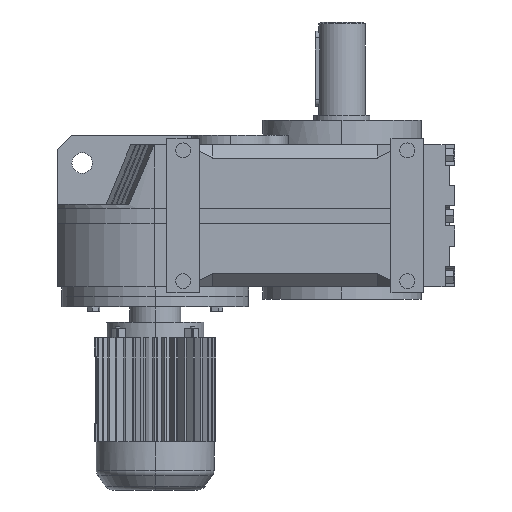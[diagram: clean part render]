
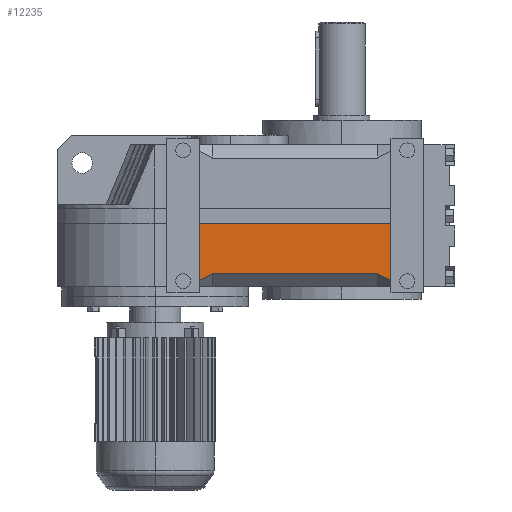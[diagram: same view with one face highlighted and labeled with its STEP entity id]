
A CAD part, left-side view. The second image highlights one B-rep face of the part: STEP entity #12235.
In plain terms, the highlighted planar face has unit normal (-1, 0, 0).
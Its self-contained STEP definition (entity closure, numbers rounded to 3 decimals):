
#145 = PLANE('',#146);
#146 = AXIS2_PLACEMENT_3D('',#147,#148,#149);
#147 = CARTESIAN_POINT('',(-102.4,-47.5,4.));
#148 = DIRECTION('',(0.,-1.,0.));
#149 = DIRECTION('',(0.,0.,-1.));
#251 = PLANE('',#252);
#252 = AXIS2_PLACEMENT_3D('',#253,#254,#255);
#253 = CARTESIAN_POINT('',(-102.4,-252.5,4.));
#254 = DIRECTION('',(0.,1.,0.));
#255 = DIRECTION('',(-1.,0.,0.));
#3078 = VERTEX_POINT('',#3079);
#3079 = CARTESIAN_POINT('',(-128.4,-47.5,17.394));
#3093 = PLANE('',#3094);
#3094 = AXIS2_PLACEMENT_3D('',#3095,#3096,#3097);
#3095 = CARTESIAN_POINT('',(-108.703,-47.5,-2.303));
#3096 = DIRECTION('',(0.664,0.342,0.664));
#3097 = DIRECTION('',(0.707,0.,
    -0.707));
#3105 = EDGE_CURVE('',#3106,#3078,#3108,.T.);
#3106 = VERTEX_POINT('',#3107);
#3107 = CARTESIAN_POINT('',(-128.4,-47.5,78.25));
#3108 = SURFACE_CURVE('',#3109,(#3113,#3120),.PCURVE_S1.);
#3109 = LINE('',#3110,#3111);
#3110 = CARTESIAN_POINT('',(-128.4,-47.5,162.4));
#3111 = VECTOR('',#3112,1.);
#3112 = DIRECTION('',(0.,0.,-1.));
#3113 = PCURVE('',#145,#3114);
#3114 = DEFINITIONAL_REPRESENTATION('',(#3115),#3119);
#3115 = LINE('',#3116,#3117);
#3116 = CARTESIAN_POINT('',(-158.4,-26.));
#3117 = VECTOR('',#3118,1.);
#3118 = DIRECTION('',(1.,0.));
#3119 = ( GEOMETRIC_REPRESENTATION_CONTEXT(2) 
PARAMETRIC_REPRESENTATION_CONTEXT() REPRESENTATION_CONTEXT('2D SPACE',''
  ) );
#3120 = PCURVE('',#3121,#3126);
#3121 = PLANE('',#3122);
#3122 = AXIS2_PLACEMENT_3D('',#3123,#3124,#3125);
#3123 = CARTESIAN_POINT('',(-128.4,-321.,162.4));
#3124 = DIRECTION('',(1.,0.,0.));
#3125 = DIRECTION('',(0.,0.,-1.));
#3126 = DEFINITIONAL_REPRESENTATION('',(#3127),#3131);
#3127 = LINE('',#3128,#3129);
#3128 = CARTESIAN_POINT('',(0.,273.5));
#3129 = VECTOR('',#3130,1.);
#3130 = DIRECTION('',(1.,0.));
#3131 = ( GEOMETRIC_REPRESENTATION_CONTEXT(2) 
PARAMETRIC_REPRESENTATION_CONTEXT() REPRESENTATION_CONTEXT('2D SPACE',''
  ) );
#3149 = PLANE('',#3150);
#3150 = AXIS2_PLACEMENT_3D('',#3151,#3152,#3153);
#3151 = CARTESIAN_POINT('',(-14.634,1.,78.25));
#3152 = DIRECTION('',(0.,0.,-1.));
#3153 = DIRECTION('',(-1.,0.,0.));
#4443 = VERTEX_POINT('',#4444);
#4444 = CARTESIAN_POINT('',(-128.4,-252.5,78.25));
#4465 = EDGE_CURVE('',#4466,#4443,#4468,.T.);
#4466 = VERTEX_POINT('',#4467);
#4467 = CARTESIAN_POINT('',(-128.4,-252.5,17.394));
#4468 = SURFACE_CURVE('',#4469,(#4473,#4480),.PCURVE_S1.);
#4469 = LINE('',#4470,#4471);
#4470 = CARTESIAN_POINT('',(-128.4,-252.5,162.4));
#4471 = VECTOR('',#4472,1.);
#4472 = DIRECTION('',(0.,0.,1.));
#4473 = PCURVE('',#251,#4474);
#4474 = DEFINITIONAL_REPRESENTATION('',(#4475),#4479);
#4475 = LINE('',#4476,#4477);
#4476 = CARTESIAN_POINT('',(26.,158.4));
#4477 = VECTOR('',#4478,1.);
#4478 = DIRECTION('',(0.,1.));
#4479 = ( GEOMETRIC_REPRESENTATION_CONTEXT(2) 
PARAMETRIC_REPRESENTATION_CONTEXT() REPRESENTATION_CONTEXT('2D SPACE',''
  ) );
#4480 = PCURVE('',#3121,#4481);
#4481 = DEFINITIONAL_REPRESENTATION('',(#4482),#4486);
#4482 = LINE('',#4483,#4484);
#4483 = CARTESIAN_POINT('',(0.,68.5));
#4484 = VECTOR('',#4485,1.);
#4485 = DIRECTION('',(-1.,0.));
#4486 = ( GEOMETRIC_REPRESENTATION_CONTEXT(2) 
PARAMETRIC_REPRESENTATION_CONTEXT() REPRESENTATION_CONTEXT('2D SPACE',''
  ) );
#4504 = PLANE('',#4505);
#4505 = AXIS2_PLACEMENT_3D('',#4506,#4507,#4508);
#4506 = CARTESIAN_POINT('',(-108.703,-252.5,-2.303));
#4507 = DIRECTION('',(0.664,-0.342,0.664));
#4508 = DIRECTION('',(0.707,0.,-0.707));
#11115 = PLANE('',#11116);
#11116 = AXIS2_PLACEMENT_3D('',#11117,#11118,#11119);
#11117 = CARTESIAN_POINT('',(-128.4,-321.,24.6));
#11118 = DIRECTION('',(0.707,0.,0.707));
#11119 = DIRECTION('',(0.707,0.,-0.707));
#12069 = EDGE_CURVE('',#4443,#3106,#12070,.T.);
#12070 = SURFACE_CURVE('',#12071,(#12075,#12082),.PCURVE_S1.);
#12071 = LINE('',#12072,#12073);
#12072 = CARTESIAN_POINT('',(-128.4,-321.,78.25));
#12073 = VECTOR('',#12074,1.);
#12074 = DIRECTION('',(0.,1.,0.));
#12075 = PCURVE('',#3149,#12076);
#12076 = DEFINITIONAL_REPRESENTATION('',(#12077),#12081);
#12077 = LINE('',#12078,#12079);
#12078 = CARTESIAN_POINT('',(113.766,-322.));
#12079 = VECTOR('',#12080,1.);
#12080 = DIRECTION('',(0.,1.));
#12081 = ( GEOMETRIC_REPRESENTATION_CONTEXT(2) 
PARAMETRIC_REPRESENTATION_CONTEXT() REPRESENTATION_CONTEXT('2D SPACE',''
  ) );
#12082 = PCURVE('',#3121,#12083);
#12083 = DEFINITIONAL_REPRESENTATION('',(#12084),#12088);
#12084 = LINE('',#12085,#12086);
#12085 = CARTESIAN_POINT('',(84.15,0.));
#12086 = VECTOR('',#12087,1.);
#12087 = DIRECTION('',(0.,1.));
#12088 = ( GEOMETRIC_REPRESENTATION_CONTEXT(2) 
PARAMETRIC_REPRESENTATION_CONTEXT() REPRESENTATION_CONTEXT('2D SPACE',''
  ) );
#12151 = VERTEX_POINT('',#12152);
#12152 = CARTESIAN_POINT('',(-128.4,-61.5,24.6));
#12173 = EDGE_CURVE('',#3078,#12151,#12174,.T.);
#12174 = SURFACE_CURVE('',#12175,(#12179,#12186),.PCURVE_S1.);
#12175 = LINE('',#12176,#12177);
#12176 = CARTESIAN_POINT('',(-128.4,-322.72,159.058));
#12177 = VECTOR('',#12178,1.);
#12178 = DIRECTION('',(0.,-0.889,0.458));
#12179 = PCURVE('',#3093,#12180);
#12180 = DEFINITIONAL_REPRESENTATION('',(#12181),#12185);
#12181 = LINE('',#12182,#12183);
#12182 = CARTESIAN_POINT('',(-128.028,-292.883));
#12183 = VECTOR('',#12184,1.);
#12184 = DIRECTION('',(-0.324,-0.946));
#12185 = ( GEOMETRIC_REPRESENTATION_CONTEXT(2) 
PARAMETRIC_REPRESENTATION_CONTEXT() REPRESENTATION_CONTEXT('2D SPACE',''
  ) );
#12186 = PCURVE('',#3121,#12187);
#12187 = DEFINITIONAL_REPRESENTATION('',(#12188),#12192);
#12188 = LINE('',#12189,#12190);
#12189 = CARTESIAN_POINT('',(3.342,-1.72));
#12190 = VECTOR('',#12191,1.);
#12191 = DIRECTION('',(-0.458,-0.889));
#12192 = ( GEOMETRIC_REPRESENTATION_CONTEXT(2) 
PARAMETRIC_REPRESENTATION_CONTEXT() REPRESENTATION_CONTEXT('2D SPACE',''
  ) );
#12235 = ADVANCED_FACE('',(#12236),#3121,.F.);
#12236 = FACE_BOUND('',#12237,.T.);
#12237 = EDGE_LOOP('',(#12238,#12239,#12240,#12263,#12284,#12285));
#12238 = ORIENTED_EDGE('',*,*,#3105,.T.);
#12239 = ORIENTED_EDGE('',*,*,#12173,.T.);
#12240 = ORIENTED_EDGE('',*,*,#12241,.T.);
#12241 = EDGE_CURVE('',#12151,#12242,#12244,.T.);
#12242 = VERTEX_POINT('',#12243);
#12243 = CARTESIAN_POINT('',(-128.4,-238.5,24.6));
#12244 = SURFACE_CURVE('',#12245,(#12249,#12256),.PCURVE_S1.);
#12245 = LINE('',#12246,#12247);
#12246 = CARTESIAN_POINT('',(-128.4,-321.,24.6));
#12247 = VECTOR('',#12248,1.);
#12248 = DIRECTION('',(0.,-1.,0.));
#12249 = PCURVE('',#3121,#12250);
#12250 = DEFINITIONAL_REPRESENTATION('',(#12251),#12255);
#12251 = LINE('',#12252,#12253);
#12252 = CARTESIAN_POINT('',(137.8,0.));
#12253 = VECTOR('',#12254,1.);
#12254 = DIRECTION('',(0.,-1.));
#12255 = ( GEOMETRIC_REPRESENTATION_CONTEXT(2) 
PARAMETRIC_REPRESENTATION_CONTEXT() REPRESENTATION_CONTEXT('2D SPACE',''
  ) );
#12256 = PCURVE('',#11115,#12257);
#12257 = DEFINITIONAL_REPRESENTATION('',(#12258),#12262);
#12258 = LINE('',#12259,#12260);
#12259 = CARTESIAN_POINT('',(0.,0.));
#12260 = VECTOR('',#12261,1.);
#12261 = DIRECTION('',(0.,-1.));
#12262 = ( GEOMETRIC_REPRESENTATION_CONTEXT(2) 
PARAMETRIC_REPRESENTATION_CONTEXT() REPRESENTATION_CONTEXT('2D SPACE',''
  ) );
#12263 = ORIENTED_EDGE('',*,*,#12264,.T.);
#12264 = EDGE_CURVE('',#12242,#4466,#12265,.T.);
#12265 = SURFACE_CURVE('',#12266,(#12270,#12277),.PCURVE_S1.);
#12266 = LINE('',#12267,#12268);
#12267 = CARTESIAN_POINT('',(-128.4,-247.647,19.892));
#12268 = VECTOR('',#12269,1.);
#12269 = DIRECTION('',(0.,-0.889,-0.458));
#12270 = PCURVE('',#3121,#12271);
#12271 = DEFINITIONAL_REPRESENTATION('',(#12272),#12276);
#12272 = LINE('',#12273,#12274);
#12273 = CARTESIAN_POINT('',(142.508,73.353));
#12274 = VECTOR('',#12275,1.);
#12275 = DIRECTION('',(0.458,-0.889));
#12276 = ( GEOMETRIC_REPRESENTATION_CONTEXT(2) 
PARAMETRIC_REPRESENTATION_CONTEXT() REPRESENTATION_CONTEXT('2D SPACE',''
  ) );
#12277 = PCURVE('',#4504,#12278);
#12278 = DEFINITIONAL_REPRESENTATION('',(#12279),#12283);
#12279 = LINE('',#12280,#12281);
#12280 = CARTESIAN_POINT('',(-29.622,5.165));
#12281 = VECTOR('',#12282,1.);
#12282 = DIRECTION('',(0.324,-0.946));
#12283 = ( GEOMETRIC_REPRESENTATION_CONTEXT(2) 
PARAMETRIC_REPRESENTATION_CONTEXT() REPRESENTATION_CONTEXT('2D SPACE',''
  ) );
#12284 = ORIENTED_EDGE('',*,*,#4465,.T.);
#12285 = ORIENTED_EDGE('',*,*,#12069,.T.);
